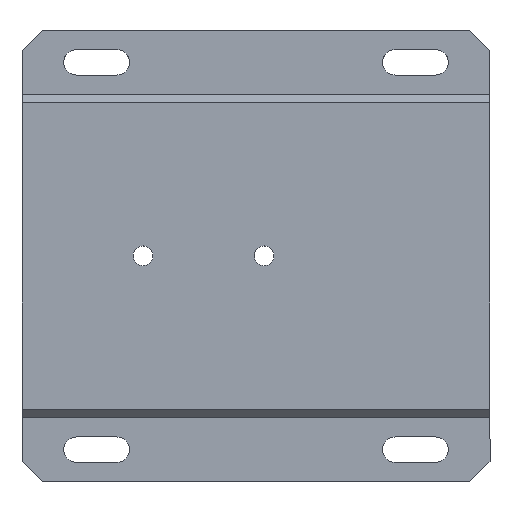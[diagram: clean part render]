
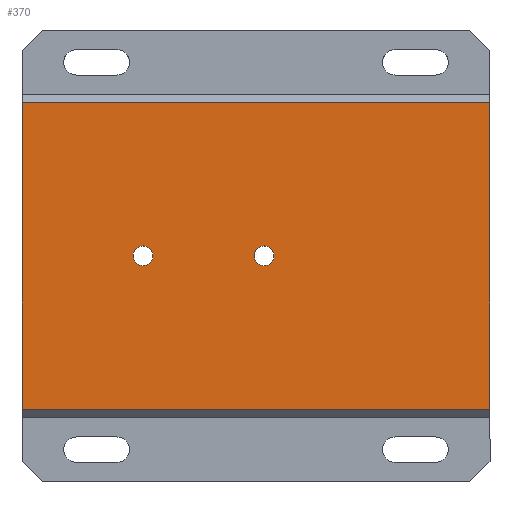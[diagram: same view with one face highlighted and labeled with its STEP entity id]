
A CAD part, top view. The second image highlights one B-rep face of the part: STEP entity #370.
In plain terms, the highlighted planar face has unit normal (0, 0, 1).
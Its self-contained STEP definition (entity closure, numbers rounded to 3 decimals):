
#5 = DIRECTION ( 'NONE',  ( -1., 0., 0. ) ) ;
#6 = EDGE_CURVE ( 'NONE', #771, #266, #645, .T. ) ;
#30 = LINE ( 'NONE', #1112, #1432 ) ;
#72 = CARTESIAN_POINT ( 'NONE',  ( -116., 40., 17.5 ) ) ;
#81 = VERTEX_POINT ( 'NONE', #189 ) ;
#84 = CARTESIAN_POINT ( 'NONE',  ( -83.542, 0., 17.5 ) ) ;
#121 = EDGE_LOOP ( 'NONE', ( #1108, #1069, #799, #944 ) ) ;
#168 = EDGE_CURVE ( 'NONE', #81, #1301, #415, .T. ) ;
#171 = VERTEX_POINT ( 'NONE', #606 ) ;
#173 = EDGE_CURVE ( 'NONE', #171, #826, #1273, .T. ) ;
#176 = FACE_BOUND ( 'NONE', #1171, .T. ) ;
#179 = CARTESIAN_POINT ( 'NONE',  ( 0., -38., 17.5 ) ) ;
#189 = CARTESIAN_POINT ( 'NONE',  ( -53.542, 0., 17.5 ) ) ;
#266 = VERTEX_POINT ( 'NONE', #698 ) ;
#286 = DIRECTION ( 'NONE',  ( -1., 0., 0. ) ) ;
#288 = DIRECTION ( 'NONE',  ( 0., 0., 1. ) ) ;
#298 = LINE ( 'NONE', #72, #1151 ) ;
#323 = CARTESIAN_POINT ( 'NONE',  ( 0., 0., 17.5 ) ) ;
#353 = VECTOR ( 'NONE', #847, 1000. ) ;
#360 = DIRECTION ( 'NONE',  ( 0., 0., 1. ) ) ;
#370 = ADVANCED_FACE ( 'NONE', ( #1031, #176, #467 ), #1262, .T. ) ;
#375 = VERTEX_POINT ( 'NONE', #693 ) ;
#378 = CARTESIAN_POINT ( 'NONE',  ( -116., -38., 17.5 ) ) ;
#390 = CARTESIAN_POINT ( 'NONE',  ( -56., 0., 17.5 ) ) ;
#398 = EDGE_LOOP ( 'NONE', ( #1424, #662 ) ) ;
#405 = DIRECTION ( 'NONE',  ( 0., -1., 0. ) ) ;
#415 = CIRCLE ( 'NONE', #809, 2.459 ) ;
#436 = CARTESIAN_POINT ( 'NONE',  ( -56., 0., 17.5 ) ) ;
#467 = FACE_OUTER_BOUND ( 'NONE', #121, .T. ) ;
#473 = AXIS2_PLACEMENT_3D ( 'NONE', #323, #360, #1257 ) ;
#542 = DIRECTION ( 'NONE',  ( -1., 0., 0. ) ) ;
#592 = CARTESIAN_POINT ( 'NONE',  ( -86., 0., 17.5 ) ) ;
#596 = VECTOR ( 'NONE', #1284, 1000. ) ;
#599 = EDGE_CURVE ( 'NONE', #735, #771, #1311, .T. ) ;
#606 = CARTESIAN_POINT ( 'NONE',  ( -88.459, 0., 17.5 ) ) ;
#645 = LINE ( 'NONE', #1429, #353 ) ;
#656 = AXIS2_PLACEMENT_3D ( 'NONE', #1008, #893, #772 ) ;
#662 = ORIENTED_EDGE ( 'NONE', *, *, #173, .F. ) ;
#693 = CARTESIAN_POINT ( 'NONE',  ( -116., 38., 17.5 ) ) ;
#698 = CARTESIAN_POINT ( 'NONE',  ( 0., 38., 17.5 ) ) ;
#727 = CARTESIAN_POINT ( 'NONE',  ( -58.459, 0., 17.5 ) ) ;
#735 = VERTEX_POINT ( 'NONE', #378 ) ;
#771 = VERTEX_POINT ( 'NONE', #989 ) ;
#772 = DIRECTION ( 'NONE',  ( -1., 0., 0. ) ) ;
#799 = ORIENTED_EDGE ( 'NONE', *, *, #6, .T. ) ;
#809 = AXIS2_PLACEMENT_3D ( 'NONE', #390, #1066, #286 ) ;
#826 = VERTEX_POINT ( 'NONE', #84 ) ;
#832 = EDGE_CURVE ( 'NONE', #375, #735, #298, .T. ) ;
#847 = DIRECTION ( 'NONE',  ( 0., 1., 0. ) ) ;
#858 = CIRCLE ( 'NONE', #868, 2.459 ) ;
#868 = AXIS2_PLACEMENT_3D ( 'NONE', #592, #288, #1185 ) ;
#893 = DIRECTION ( 'NONE',  ( 0., 0., 1. ) ) ;
#944 = ORIENTED_EDGE ( 'NONE', *, *, #990, .T. ) ;
#973 = EDGE_CURVE ( 'NONE', #1301, #81, #1211, .T. ) ;
#989 = CARTESIAN_POINT ( 'NONE',  ( 0., -38., 17.5 ) ) ;
#990 = EDGE_CURVE ( 'NONE', #266, #375, #30, .T. ) ;
#1001 = ORIENTED_EDGE ( 'NONE', *, *, #973, .F. ) ;
#1008 = CARTESIAN_POINT ( 'NONE',  ( -86., 0., 17.5 ) ) ;
#1031 = FACE_BOUND ( 'NONE', #398, .T. ) ;
#1066 = DIRECTION ( 'NONE',  ( 0., 0., 1. ) ) ;
#1069 = ORIENTED_EDGE ( 'NONE', *, *, #599, .T. ) ;
#1108 = ORIENTED_EDGE ( 'NONE', *, *, #832, .T. ) ;
#1112 = CARTESIAN_POINT ( 'NONE',  ( 0., 38., 17.5 ) ) ;
#1151 = VECTOR ( 'NONE', #405, 1000. ) ;
#1153 = ORIENTED_EDGE ( 'NONE', *, *, #168, .F. ) ;
#1171 = EDGE_LOOP ( 'NONE', ( #1153, #1001 ) ) ;
#1185 = DIRECTION ( 'NONE',  ( -1., 0., 0. ) ) ;
#1211 = CIRCLE ( 'NONE', #1264, 2.459 ) ;
#1224 = DIRECTION ( 'NONE',  ( 0., 0., 1. ) ) ;
#1244 = EDGE_CURVE ( 'NONE', #826, #171, #858, .T. ) ;
#1257 = DIRECTION ( 'NONE',  ( 1., 0., 0. ) ) ;
#1262 = PLANE ( 'NONE',  #473 ) ;
#1264 = AXIS2_PLACEMENT_3D ( 'NONE', #436, #1224, #542 ) ;
#1273 = CIRCLE ( 'NONE', #656, 2.459 ) ;
#1284 = DIRECTION ( 'NONE',  ( 1., 0., 0. ) ) ;
#1301 = VERTEX_POINT ( 'NONE', #727 ) ;
#1311 = LINE ( 'NONE', #179, #596 ) ;
#1424 = ORIENTED_EDGE ( 'NONE', *, *, #1244, .F. ) ;
#1429 = CARTESIAN_POINT ( 'NONE',  ( 0., -40., 17.5 ) ) ;
#1432 = VECTOR ( 'NONE', #5, 1000. ) ;
